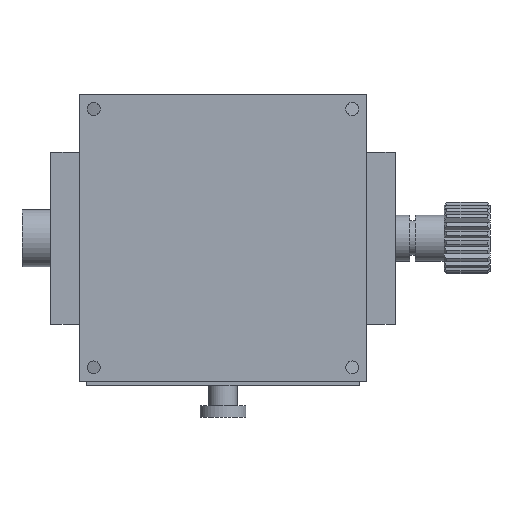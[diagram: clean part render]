
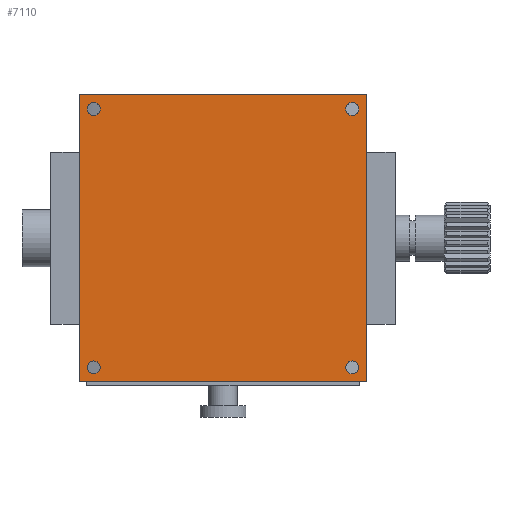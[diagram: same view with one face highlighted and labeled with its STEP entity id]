
A CAD part, front view. The second image highlights one B-rep face of the part: STEP entity #7110.
In plain terms, the highlighted planar face has unit normal (0, -1, 0).
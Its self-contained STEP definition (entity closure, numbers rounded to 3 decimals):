
#302 = DIRECTION ( 'NONE',  ( -1., 0., 0. ) ) ;
#413 = CARTESIAN_POINT ( 'NONE',  ( 50., 0., 50. ) ) ;
#453 = DIRECTION ( 'NONE',  ( 0., 1., 0. ) ) ;
#1147 = EDGE_CURVE ( 'NONE', #13003, #23029, #25921, .T. ) ;
#1574 = EDGE_LOOP ( 'NONE', ( #12985, #28865 ) ) ;
#1772 = EDGE_CURVE ( 'NONE', #6464, #9666, #22663, .T. ) ;
#1781 = ORIENTED_EDGE ( 'NONE', *, *, #22964, .T. ) ;
#2016 = AXIS2_PLACEMENT_3D ( 'NONE', #5015, #7306, #23432 ) ;
#2130 = VECTOR ( 'NONE', #27789, 1000. ) ;
#2375 = VERTEX_POINT ( 'NONE', #26408 ) ;
#2671 = CARTESIAN_POINT ( 'NONE',  ( 0., 0., 0. ) ) ;
#2858 = LINE ( 'NONE', #25353, #2130 ) ;
#3047 = CARTESIAN_POINT ( 'NONE',  ( 45., 0., 45. ) ) ;
#3246 = CARTESIAN_POINT ( 'NONE',  ( 45., 0., 42.75 ) ) ;
#3258 = EDGE_CURVE ( 'NONE', #25543, #8992, #28686, .T. ) ;
#3265 = CARTESIAN_POINT ( 'NONE',  ( 45., 0., 45. ) ) ;
#3481 = FACE_OUTER_BOUND ( 'NONE', #7346, .T. ) ;
#4161 = AXIS2_PLACEMENT_3D ( 'NONE', #9075, #15501, #11055 ) ;
#4296 = CARTESIAN_POINT ( 'NONE',  ( -45., 0., -47.25 ) ) ;
#4513 = CARTESIAN_POINT ( 'NONE',  ( -45., 0., -42.75 ) ) ;
#5015 = CARTESIAN_POINT ( 'NONE',  ( 45., 0., -45. ) ) ;
#5216 = AXIS2_PLACEMENT_3D ( 'NONE', #3047, #28157, #25516 ) ;
#5346 = DIRECTION ( 'NONE',  ( 0., 0., 1. ) ) ;
#5998 = ORIENTED_EDGE ( 'NONE', *, *, #7235, .F. ) ;
#6241 = LINE ( 'NONE', #26127, #25867 ) ;
#6464 = VERTEX_POINT ( 'NONE', #29008 ) ;
#7016 = DIRECTION ( 'NONE',  ( 0., -1., 0. ) ) ;
#7110 = ADVANCED_FACE ( 'NONE', ( #15718, #7509, #13786, #16982, #3481 ), #20646, .T. ) ;
#7235 = EDGE_CURVE ( 'NONE', #10778, #8006, #6241, .T. ) ;
#7306 = DIRECTION ( 'NONE',  ( 0., 1., 0. ) ) ;
#7346 = EDGE_LOOP ( 'NONE', ( #14042, #5998, #16528, #18112 ) ) ;
#7509 = FACE_BOUND ( 'NONE', #8735, .T. ) ;
#7803 = CIRCLE ( 'NONE', #2016, 2.25 ) ;
#8006 = VERTEX_POINT ( 'NONE', #12486 ) ;
#8104 = DIRECTION ( 'NONE',  ( 0., 1., 0. ) ) ;
#8175 = AXIS2_PLACEMENT_3D ( 'NONE', #2671, #7016, #22940 ) ;
#8573 = CARTESIAN_POINT ( 'NONE',  ( -50., 0., -50. ) ) ;
#8735 = EDGE_LOOP ( 'NONE', ( #10912, #12599 ) ) ;
#8992 = VERTEX_POINT ( 'NONE', #4513 ) ;
#9075 = CARTESIAN_POINT ( 'NONE',  ( -45., 0., -45. ) ) ;
#9208 = EDGE_CURVE ( 'NONE', #28464, #26256, #13258, .T. ) ;
#9455 = VECTOR ( 'NONE', #302, 1000. ) ;
#9587 = EDGE_CURVE ( 'NONE', #8006, #2375, #20344, .T. ) ;
#9666 = VERTEX_POINT ( 'NONE', #25987 ) ;
#9990 = CARTESIAN_POINT ( 'NONE',  ( -45., 0., 45. ) ) ;
#10276 = EDGE_CURVE ( 'NONE', #23029, #13003, #26791, .T. ) ;
#10331 = CARTESIAN_POINT ( 'NONE',  ( -45., 0., -45. ) ) ;
#10666 = AXIS2_PLACEMENT_3D ( 'NONE', #9990, #453, #18713 ) ;
#10694 = EDGE_LOOP ( 'NONE', ( #16233, #1781 ) ) ;
#10778 = VERTEX_POINT ( 'NONE', #26652 ) ;
#10912 = ORIENTED_EDGE ( 'NONE', *, *, #1147, .T. ) ;
#11055 = DIRECTION ( 'NONE',  ( 0., 0., 1. ) ) ;
#11813 = AXIS2_PLACEMENT_3D ( 'NONE', #23595, #21108, #16898 ) ;
#12092 = CARTESIAN_POINT ( 'NONE',  ( -45., 0., 45. ) ) ;
#12390 = EDGE_CURVE ( 'NONE', #26256, #28464, #7803, .T. ) ;
#12486 = CARTESIAN_POINT ( 'NONE',  ( 50., 0., 50. ) ) ;
#12599 = ORIENTED_EDGE ( 'NONE', *, *, #10276, .T. ) ;
#12985 = ORIENTED_EDGE ( 'NONE', *, *, #12390, .T. ) ;
#13003 = VERTEX_POINT ( 'NONE', #19921 ) ;
#13258 = CIRCLE ( 'NONE', #11813, 2.25 ) ;
#13786 = FACE_BOUND ( 'NONE', #10694, .T. ) ;
#13954 = CIRCLE ( 'NONE', #10666, 2.25 ) ;
#14042 = ORIENTED_EDGE ( 'NONE', *, *, #9587, .F. ) ;
#14734 = AXIS2_PLACEMENT_3D ( 'NONE', #12092, #18942, #5346 ) ;
#15501 = DIRECTION ( 'NONE',  ( 0., 1., 0. ) ) ;
#15539 = EDGE_LOOP ( 'NONE', ( #26460, #15834 ) ) ;
#15718 = FACE_BOUND ( 'NONE', #1574, .T. ) ;
#15834 = ORIENTED_EDGE ( 'NONE', *, *, #3258, .T. ) ;
#16233 = ORIENTED_EDGE ( 'NONE', *, *, #1772, .T. ) ;
#16467 = AXIS2_PLACEMENT_3D ( 'NONE', #10331, #26192, #26298 ) ;
#16528 = ORIENTED_EDGE ( 'NONE', *, *, #20618, .F. ) ;
#16898 = DIRECTION ( 'NONE',  ( 0., 0., 1. ) ) ;
#16982 = FACE_BOUND ( 'NONE', #15539, .T. ) ;
#17843 = VECTOR ( 'NONE', #23278, 1000. ) ;
#18112 = ORIENTED_EDGE ( 'NONE', *, *, #27379, .F. ) ;
#18547 = CARTESIAN_POINT ( 'NONE',  ( 45., 0., -42.75 ) ) ;
#18713 = DIRECTION ( 'NONE',  ( 0., 0., 1. ) ) ;
#18942 = DIRECTION ( 'NONE',  ( 0., 1., 0. ) ) ;
#18996 = VERTEX_POINT ( 'NONE', #8573 ) ;
#19119 = EDGE_CURVE ( 'NONE', #8992, #25543, #22871, .T. ) ;
#19921 = CARTESIAN_POINT ( 'NONE',  ( 45., 0., 47.25 ) ) ;
#20344 = LINE ( 'NONE', #413, #17843 ) ;
#20618 = EDGE_CURVE ( 'NONE', #18996, #10778, #2858, .T. ) ;
#20646 = PLANE ( 'NONE',  #8175 ) ;
#20675 = CARTESIAN_POINT ( 'NONE',  ( -50., 0., -50. ) ) ;
#21108 = DIRECTION ( 'NONE',  ( 0., 1., 0. ) ) ;
#21718 = DIRECTION ( 'NONE',  ( 1., 0., 0. ) ) ;
#22663 = CIRCLE ( 'NONE', #14734, 2.25 ) ;
#22871 = CIRCLE ( 'NONE', #4161, 2.25 ) ;
#22918 = CARTESIAN_POINT ( 'NONE',  ( 45., 0., -47.25 ) ) ;
#22940 = DIRECTION ( 'NONE',  ( 0., 0., -1. ) ) ;
#22964 = EDGE_CURVE ( 'NONE', #9666, #6464, #13954, .T. ) ;
#23029 = VERTEX_POINT ( 'NONE', #3246 ) ;
#23278 = DIRECTION ( 'NONE',  ( 0., 0., -1. ) ) ;
#23432 = DIRECTION ( 'NONE',  ( 0., 0., 1. ) ) ;
#23595 = CARTESIAN_POINT ( 'NONE',  ( 45., 0., -45. ) ) ;
#24033 = DIRECTION ( 'NONE',  ( 0., 0., 1. ) ) ;
#25008 = AXIS2_PLACEMENT_3D ( 'NONE', #3265, #8104, #24033 ) ;
#25353 = CARTESIAN_POINT ( 'NONE',  ( -50., 0., 50. ) ) ;
#25516 = DIRECTION ( 'NONE',  ( 0., 0., 1. ) ) ;
#25543 = VERTEX_POINT ( 'NONE', #4296 ) ;
#25867 = VECTOR ( 'NONE', #21718, 1000. ) ;
#25921 = CIRCLE ( 'NONE', #5216, 2.25 ) ;
#25987 = CARTESIAN_POINT ( 'NONE',  ( -45., 0., 42.75 ) ) ;
#26127 = CARTESIAN_POINT ( 'NONE',  ( -50., 0., 50. ) ) ;
#26192 = DIRECTION ( 'NONE',  ( 0., 1., 0. ) ) ;
#26256 = VERTEX_POINT ( 'NONE', #18547 ) ;
#26298 = DIRECTION ( 'NONE',  ( 0., 0., 1. ) ) ;
#26408 = CARTESIAN_POINT ( 'NONE',  ( 50., 0., -50. ) ) ;
#26460 = ORIENTED_EDGE ( 'NONE', *, *, #19119, .T. ) ;
#26652 = CARTESIAN_POINT ( 'NONE',  ( -50., 0., 50. ) ) ;
#26791 = CIRCLE ( 'NONE', #25008, 2.25 ) ;
#27379 = EDGE_CURVE ( 'NONE', #2375, #18996, #28016, .T. ) ;
#27789 = DIRECTION ( 'NONE',  ( 0., 0., 1. ) ) ;
#28016 = LINE ( 'NONE', #20675, #9455 ) ;
#28157 = DIRECTION ( 'NONE',  ( 0., 1., 0. ) ) ;
#28464 = VERTEX_POINT ( 'NONE', #22918 ) ;
#28686 = CIRCLE ( 'NONE', #16467, 2.25 ) ;
#28865 = ORIENTED_EDGE ( 'NONE', *, *, #9208, .T. ) ;
#29008 = CARTESIAN_POINT ( 'NONE',  ( -45., 0., 47.25 ) ) ;
